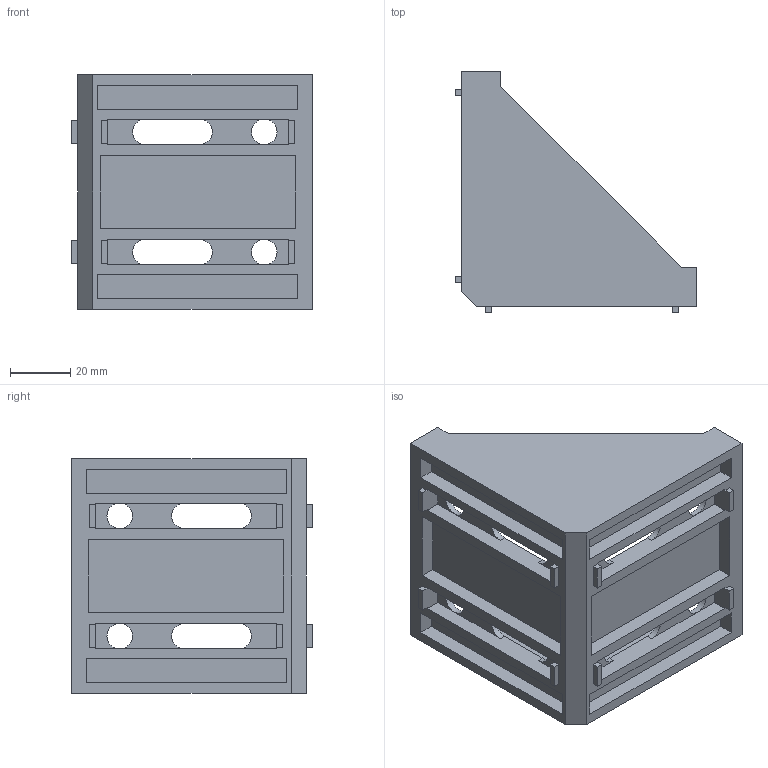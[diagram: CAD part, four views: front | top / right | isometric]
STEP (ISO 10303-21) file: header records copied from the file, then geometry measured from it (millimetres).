
FILE_DESCRIPTION (( 'STEP AP203' ), '1' );
FILE_NAME ('63－CE-RA8080-8.STEP', '2015-07-08T01:40:04', ( '' ), ( '' ), 'SwSTEP 2.0', 'SolidWorks 2013', '' );
FILE_SCHEMA (( 'CONFIG_CONTROL_DESIGN' ));
Length unit declared in the file: millimetre
Products named in the file (1): 63－CE-RA8080-8
Bounding box: 80 x 80 x 78 mm (x, y, z)
Volume: 60403.2 mm3; surface area: 42781.4 mm2
Topology: 1 solids, 1 shells, 127 faces, 361 edges, 238 vertices
Faces by surface type: plane 107, cylinder 20
Entity records: 4188 total; most frequent: CARTESIAN_POINT 727, ORIENTED_EDGE 722, DIRECTION 665, EDGE_CURVE 361, VECTOR 313, LINE 313, VERTEX_POINT 238, AXIS2_PLACEMENT_3D 176
